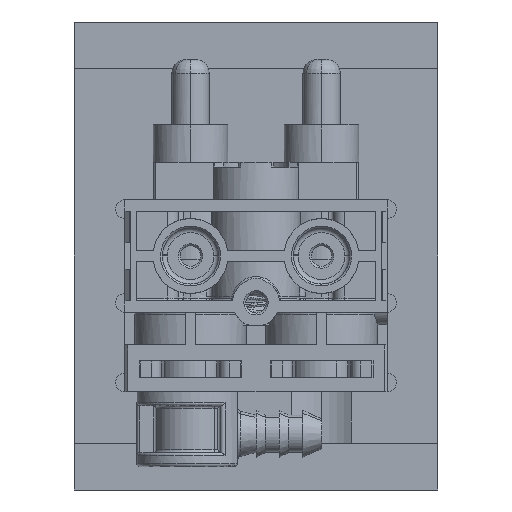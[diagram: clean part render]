
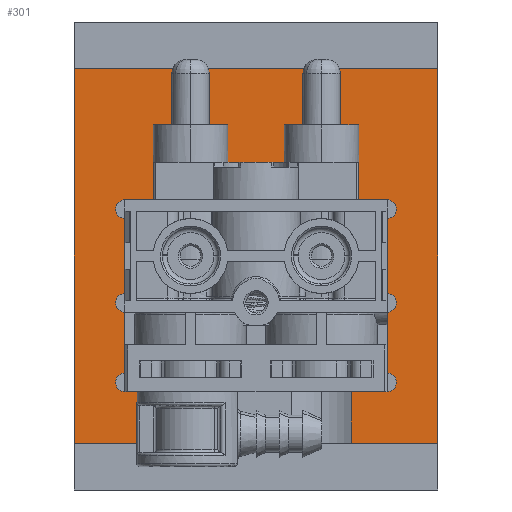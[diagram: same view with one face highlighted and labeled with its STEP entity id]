
A CAD part, left-side view. The second image highlights one B-rep face of the part: STEP entity #301.
In plain terms, the highlighted planar face has unit normal (-1, 0, 0).
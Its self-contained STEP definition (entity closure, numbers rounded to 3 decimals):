
#155=AXIS2_PLACEMENT_3D('Plane Axis2P3D',#152,#153,#154) ;
#159=AXIS2_PLACEMENT_3D('Circle Axis2P3D',#157,#158,$) ;
#173=AXIS2_PLACEMENT_3D('Circle Axis2P3D',#171,#172,$) ;
#187=AXIS2_PLACEMENT_3D('Circle Axis2P3D',#185,#186,$) ;
#201=AXIS2_PLACEMENT_3D('Circle Axis2P3D',#199,#200,$) ;
#215=AXIS2_PLACEMENT_3D('Circle Axis2P3D',#213,#214,$) ;
#229=AXIS2_PLACEMENT_3D('Circle Axis2P3D',#227,#228,$) ;
#97=CARTESIAN_POINT('Vertex',(15.,-31.5,9.266)) ;
#100=CARTESIAN_POINT('Line Origine',(15.,-31.5,11.183)) ;
#104=CARTESIAN_POINT('Vertex',(15.,-31.5,13.1)) ;
#125=CARTESIAN_POINT('Vertex',(15.,-31.5,-14.9)) ;
#128=CARTESIAN_POINT('Line Origine',(15.,-31.5,-12.983)) ;
#132=CARTESIAN_POINT('Vertex',(15.,-31.5,-11.066)) ;
#152=CARTESIAN_POINT('Axis2P3D Location',(15.,8.,18.5)) ;
#157=CARTESIAN_POINT('Axis2P3D Location',(15.,-30.5,-14.9)) ;
#161=CARTESIAN_POINT('Vertex',(15.,-29.5,-14.9)) ;
#164=CARTESIAN_POINT('Line Origine',(15.,-26.25,-14.9)) ;
#168=CARTESIAN_POINT('Vertex',(15.,-23.,-14.9)) ;
#171=CARTESIAN_POINT('Axis2P3D Location',(15.,-22.,-14.9)) ;
#175=CARTESIAN_POINT('Vertex',(15.,-21.,-14.9)) ;
#178=CARTESIAN_POINT('Line Origine',(15.,-17.,-14.9)) ;
#182=CARTESIAN_POINT('Vertex',(15.,-13.,-14.9)) ;
#185=CARTESIAN_POINT('Axis2P3D Location',(15.,-12.,-14.9)) ;
#189=CARTESIAN_POINT('Vertex',(15.,-11.,-14.9)) ;
#192=CARTESIAN_POINT('Line Origine',(15.,-11.,-0.9)) ;
#196=CARTESIAN_POINT('Vertex',(15.,-11.,13.1)) ;
#199=CARTESIAN_POINT('Axis2P3D Location',(15.,-12.,13.1)) ;
#203=CARTESIAN_POINT('Vertex',(15.,-13.,13.1)) ;
#206=CARTESIAN_POINT('Line Origine',(15.,-17.,13.1)) ;
#210=CARTESIAN_POINT('Vertex',(15.,-21.,13.1)) ;
#213=CARTESIAN_POINT('Axis2P3D Location',(15.,-22.,13.1)) ;
#217=CARTESIAN_POINT('Vertex',(15.,-23.,13.1)) ;
#220=CARTESIAN_POINT('Line Origine',(15.,-26.25,13.1)) ;
#224=CARTESIAN_POINT('Vertex',(15.,-29.5,13.1)) ;
#227=CARTESIAN_POINT('Axis2P3D Location',(15.,-30.5,13.1)) ;
#232=CARTESIAN_POINT('Line Origine',(15.,-34.25,9.266)) ;
#236=CARTESIAN_POINT('Vertex',(15.,-37.,9.266)) ;
#239=CARTESIAN_POINT('Line Origine',(15.,-37.,13.883)) ;
#243=CARTESIAN_POINT('Vertex',(15.,-37.,18.5)) ;
#246=CARTESIAN_POINT('Line Origine',(15.,-17.,18.5)) ;
#250=CARTESIAN_POINT('Vertex',(15.,3.,18.5)) ;
#253=CARTESIAN_POINT('Line Origine',(15.,3.,-0.9)) ;
#257=CARTESIAN_POINT('Vertex',(15.,3.,-20.3)) ;
#260=CARTESIAN_POINT('Line Origine',(15.,-17.,-20.3)) ;
#264=CARTESIAN_POINT('Vertex',(15.,-37.,-20.3)) ;
#267=CARTESIAN_POINT('Line Origine',(15.,-37.,-15.683)) ;
#271=CARTESIAN_POINT('Vertex',(15.,-37.,-11.066)) ;
#274=CARTESIAN_POINT('Line Origine',(15.,-34.25,-11.066)) ;
#101=DIRECTION('Vector Direction',(0.,0.,1.)) ;
#129=DIRECTION('Vector Direction',(0.,0.,1.)) ;
#153=DIRECTION('Axis2P3D Direction',(-1.,-0.,0.)) ;
#154=DIRECTION('Axis2P3D XDirection',(0.,-0.,-1.)) ;
#158=DIRECTION('Axis2P3D Direction',(-1.,-0.,0.)) ;
#165=DIRECTION('Vector Direction',(0.,1.,0.)) ;
#172=DIRECTION('Axis2P3D Direction',(-1.,-0.,0.)) ;
#179=DIRECTION('Vector Direction',(0.,1.,0.)) ;
#186=DIRECTION('Axis2P3D Direction',(-1.,-0.,0.)) ;
#193=DIRECTION('Vector Direction',(0.,0.,-1.)) ;
#200=DIRECTION('Axis2P3D Direction',(-1.,-0.,0.)) ;
#207=DIRECTION('Vector Direction',(0.,-1.,0.)) ;
#214=DIRECTION('Axis2P3D Direction',(-1.,-0.,0.)) ;
#221=DIRECTION('Vector Direction',(0.,-1.,0.)) ;
#228=DIRECTION('Axis2P3D Direction',(-1.,-0.,0.)) ;
#233=DIRECTION('Vector Direction',(0.,-1.,0.)) ;
#240=DIRECTION('Vector Direction',(0.,0.,1.)) ;
#247=DIRECTION('Vector Direction',(0.,-1.,0.)) ;
#254=DIRECTION('Vector Direction',(0.,0.,1.)) ;
#261=DIRECTION('Vector Direction',(0.,-1.,0.)) ;
#268=DIRECTION('Vector Direction',(0.,0.,1.)) ;
#275=DIRECTION('Vector Direction',(0.,-1.,0.)) ;
#102=VECTOR('Line Direction',#101,1.) ;
#130=VECTOR('Line Direction',#129,1.) ;
#166=VECTOR('Line Direction',#165,1.) ;
#180=VECTOR('Line Direction',#179,1.) ;
#194=VECTOR('Line Direction',#193,1.) ;
#208=VECTOR('Line Direction',#207,1.) ;
#222=VECTOR('Line Direction',#221,1.) ;
#234=VECTOR('Line Direction',#233,1.) ;
#241=VECTOR('Line Direction',#240,1.) ;
#248=VECTOR('Line Direction',#247,1.) ;
#255=VECTOR('Line Direction',#254,1.) ;
#262=VECTOR('Line Direction',#261,1.) ;
#269=VECTOR('Line Direction',#268,1.) ;
#276=VECTOR('Line Direction',#275,1.) ;
#280=ORIENTED_EDGE('',*,*,#134,.F.) ;
#281=ORIENTED_EDGE('',*,*,#163,.F.) ;
#282=ORIENTED_EDGE('',*,*,#170,.F.) ;
#283=ORIENTED_EDGE('',*,*,#177,.F.) ;
#284=ORIENTED_EDGE('',*,*,#184,.F.) ;
#285=ORIENTED_EDGE('',*,*,#191,.F.) ;
#286=ORIENTED_EDGE('',*,*,#198,.F.) ;
#287=ORIENTED_EDGE('',*,*,#205,.F.) ;
#288=ORIENTED_EDGE('',*,*,#212,.F.) ;
#289=ORIENTED_EDGE('',*,*,#219,.F.) ;
#290=ORIENTED_EDGE('',*,*,#226,.F.) ;
#291=ORIENTED_EDGE('',*,*,#231,.F.) ;
#292=ORIENTED_EDGE('',*,*,#106,.F.) ;
#293=ORIENTED_EDGE('',*,*,#238,.T.) ;
#294=ORIENTED_EDGE('',*,*,#245,.T.) ;
#295=ORIENTED_EDGE('',*,*,#252,.F.) ;
#296=ORIENTED_EDGE('',*,*,#259,.F.) ;
#297=ORIENTED_EDGE('',*,*,#266,.T.) ;
#298=ORIENTED_EDGE('',*,*,#273,.T.) ;
#299=ORIENTED_EDGE('',*,*,#278,.F.) ;
#301=ADVANCED_FACE('\X2\96F64EF651E04F554F53\X0\',(#300),#156,.T.) ;
#160=CIRCLE('generated circle',#159,1.) ;
#174=CIRCLE('generated circle',#173,1.) ;
#188=CIRCLE('generated circle',#187,1.) ;
#202=CIRCLE('generated circle',#201,1.) ;
#216=CIRCLE('generated circle',#215,1.) ;
#230=CIRCLE('generated circle',#229,1.) ;
#106=EDGE_CURVE('',#98,#105,#103,.T.) ;
#134=EDGE_CURVE('',#126,#133,#131,.T.) ;
#163=EDGE_CURVE('',#162,#126,#160,.T.) ;
#170=EDGE_CURVE('',#169,#162,#167,.F.) ;
#177=EDGE_CURVE('',#176,#169,#174,.T.) ;
#184=EDGE_CURVE('',#183,#176,#181,.F.) ;
#191=EDGE_CURVE('',#190,#183,#188,.T.) ;
#198=EDGE_CURVE('',#197,#190,#195,.T.) ;
#205=EDGE_CURVE('',#204,#197,#202,.T.) ;
#212=EDGE_CURVE('',#211,#204,#209,.F.) ;
#219=EDGE_CURVE('',#218,#211,#216,.T.) ;
#226=EDGE_CURVE('',#225,#218,#223,.F.) ;
#231=EDGE_CURVE('',#105,#225,#230,.T.) ;
#238=EDGE_CURVE('',#98,#237,#235,.T.) ;
#245=EDGE_CURVE('',#237,#244,#242,.T.) ;
#252=EDGE_CURVE('',#251,#244,#249,.T.) ;
#259=EDGE_CURVE('',#258,#251,#256,.T.) ;
#266=EDGE_CURVE('',#258,#265,#263,.T.) ;
#273=EDGE_CURVE('',#265,#272,#270,.T.) ;
#278=EDGE_CURVE('',#133,#272,#277,.T.) ;
#279=EDGE_LOOP('',(#280,#281,#282,#283,#284,#285,#286,#287,#288,#289,#290,#291,#292,#293,#294,#295,#296,#297,#298,#299)) ;
#300=FACE_OUTER_BOUND('',#279,.T.) ;
#103=LINE('Line',#100,#102) ;
#131=LINE('Line',#128,#130) ;
#167=LINE('Line',#164,#166) ;
#181=LINE('Line',#178,#180) ;
#195=LINE('Line',#192,#194) ;
#209=LINE('Line',#206,#208) ;
#223=LINE('Line',#220,#222) ;
#235=LINE('Line',#232,#234) ;
#242=LINE('Line',#239,#241) ;
#249=LINE('Line',#246,#248) ;
#256=LINE('Line',#253,#255) ;
#263=LINE('Line',#260,#262) ;
#270=LINE('Line',#267,#269) ;
#277=LINE('Line',#274,#276) ;
#156=PLANE('',#155) ;
#98=VERTEX_POINT('',#97) ;
#105=VERTEX_POINT('',#104) ;
#126=VERTEX_POINT('',#125) ;
#133=VERTEX_POINT('',#132) ;
#162=VERTEX_POINT('',#161) ;
#169=VERTEX_POINT('',#168) ;
#176=VERTEX_POINT('',#175) ;
#183=VERTEX_POINT('',#182) ;
#190=VERTEX_POINT('',#189) ;
#197=VERTEX_POINT('',#196) ;
#204=VERTEX_POINT('',#203) ;
#211=VERTEX_POINT('',#210) ;
#218=VERTEX_POINT('',#217) ;
#225=VERTEX_POINT('',#224) ;
#237=VERTEX_POINT('',#236) ;
#244=VERTEX_POINT('',#243) ;
#251=VERTEX_POINT('',#250) ;
#258=VERTEX_POINT('',#257) ;
#265=VERTEX_POINT('',#264) ;
#272=VERTEX_POINT('',#271) ;
